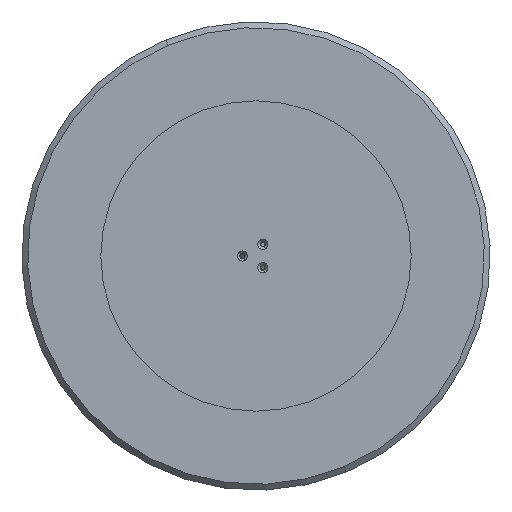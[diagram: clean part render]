
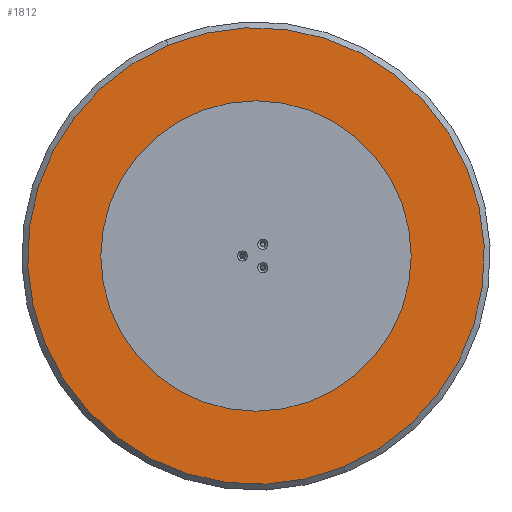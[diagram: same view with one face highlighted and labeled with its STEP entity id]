
A CAD part, front view. The second image highlights one B-rep face of the part: STEP entity #1812.
In plain terms, the highlighted planar face has unit normal (0, -1, 0).
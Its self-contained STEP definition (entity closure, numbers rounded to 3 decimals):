
#11 = CARTESIAN_POINT ( 'NONE',  ( 95., 0., -54.848 ) ) ;
#151 = EDGE_CURVE ( 'NONE', #3780, #4462, #2841, .T. ) ;
#310 = EDGE_CURVE ( 'NONE', #5137, #4382, #3032, .T. ) ;
#325 = DIRECTION ( 'NONE',  ( 0., -1., 0. ) ) ;
#335 = EDGE_LOOP ( 'NONE', ( #770, #4943 ) ) ;
#467 = CARTESIAN_POINT ( 'NONE',  ( 0., 0., 113.097 ) ) ;
#502 = EDGE_CURVE ( 'NONE', #5224, #3709, #5930, .T. ) ;
#513 = DIRECTION ( 'NONE',  ( 0., -1., 0. ) ) ;
#534 = EDGE_CURVE ( 'NONE', #4159, #6152, #1305, .T. ) ;
#560 = DIRECTION ( 'NONE',  ( 0., -1., 0. ) ) ;
#585 = CIRCLE ( 'NONE', #1911, 3.4 ) ;
#588 = CIRCLE ( 'NONE', #1095, 3.4 ) ;
#593 = CARTESIAN_POINT ( 'NONE',  ( 0., 0., 390. ) ) ;
#615 = ORIENTED_EDGE ( 'NONE', *, *, #151, .F. ) ;
#770 = ORIENTED_EDGE ( 'NONE', *, *, #534, .F. ) ;
#860 = DIRECTION ( 'NONE',  ( 0., 0., -1. ) ) ;
#971 = PLANE ( 'NONE',  #6348 ) ;
#988 = CARTESIAN_POINT ( 'NONE',  ( 95., 0., -51.448 ) ) ;
#1083 = DIRECTION ( 'NONE',  ( 0., -1., 0. ) ) ;
#1093 = AXIS2_PLACEMENT_3D ( 'NONE', #3929, #1083, #3494 ) ;
#1095 = AXIS2_PLACEMENT_3D ( 'NONE', #5447, #4363, #4842 ) ;
#1121 = CARTESIAN_POINT ( 'NONE',  ( 0., 0., -390. ) ) ;
#1122 = VERTEX_POINT ( 'NONE', #2198 ) ;
#1183 = AXIS2_PLACEMENT_3D ( 'NONE', #3269, #1347, #860 ) ;
#1305 = CIRCLE ( 'NONE', #1093, 3.4 ) ;
#1339 = ORIENTED_EDGE ( 'NONE', *, *, #502, .F. ) ;
#1347 = DIRECTION ( 'NONE',  ( 0., -1., 0. ) ) ;
#1695 = CARTESIAN_POINT ( 'NONE',  ( -95., 0., -54.848 ) ) ;
#1791 = CARTESIAN_POINT ( 'NONE',  ( 0., 0., 0. ) ) ;
#1812 = ADVANCED_FACE ( 'NONE', ( #5253, #5700, #2796, #6285, #6314 ), #971, .T. ) ;
#1865 = CARTESIAN_POINT ( 'NONE',  ( 0., 0., 0. ) ) ;
#1893 = DIRECTION ( 'NONE',  ( 0., 0., -1. ) ) ;
#1911 = AXIS2_PLACEMENT_3D ( 'NONE', #1695, #5628, #4214 ) ;
#1950 = DIRECTION ( 'NONE',  ( 0., 0., -1. ) ) ;
#1977 = CARTESIAN_POINT ( 'NONE',  ( -95., 0., -54.848 ) ) ;
#1990 = EDGE_LOOP ( 'NONE', ( #5505, #2734 ) ) ;
#2075 = DIRECTION ( 'NONE',  ( 0., 0., -1. ) ) ;
#2198 = CARTESIAN_POINT ( 'NONE',  ( 0., 0., 106.297 ) ) ;
#2249 = EDGE_CURVE ( 'NONE', #3141, #1122, #5313, .T. ) ;
#2451 = ORIENTED_EDGE ( 'NONE', *, *, #4725, .F. ) ;
#2527 = DIRECTION ( 'NONE',  ( 0., -1., 0. ) ) ;
#2534 = DIRECTION ( 'NONE',  ( 0., -1., 0. ) ) ;
#2699 = ORIENTED_EDGE ( 'NONE', *, *, #6231, .F. ) ;
#2734 = ORIENTED_EDGE ( 'NONE', *, *, #2249, .F. ) ;
#2796 = FACE_BOUND ( 'NONE', #1990, .T. ) ;
#2799 = EDGE_CURVE ( 'NONE', #6152, #4159, #3002, .T. ) ;
#2841 = CIRCLE ( 'NONE', #5610, 3.4 ) ;
#2995 = DIRECTION ( 'NONE',  ( 0., 0., -1. ) ) ;
#3002 = CIRCLE ( 'NONE', #3845, 3.4 ) ;
#3032 = CIRCLE ( 'NONE', #5207, 390. ) ;
#3076 = EDGE_CURVE ( 'NONE', #4382, #5137, #5101, .T. ) ;
#3108 = EDGE_CURVE ( 'NONE', #1122, #3141, #588, .T. ) ;
#3141 = VERTEX_POINT ( 'NONE', #467 ) ;
#3250 = AXIS2_PLACEMENT_3D ( 'NONE', #1977, #2527, #5368 ) ;
#3251 = ORIENTED_EDGE ( 'NONE', *, *, #3076, .T. ) ;
#3269 = CARTESIAN_POINT ( 'NONE',  ( 0., 0., 0. ) ) ;
#3409 = ORIENTED_EDGE ( 'NONE', *, *, #310, .T. ) ;
#3463 = AXIS2_PLACEMENT_3D ( 'NONE', #3571, #2534, #2075 ) ;
#3494 = DIRECTION ( 'NONE',  ( 0., 0., -1. ) ) ;
#3571 = CARTESIAN_POINT ( 'NONE',  ( 0., 0., 109.697 ) ) ;
#3625 = EDGE_LOOP ( 'NONE', ( #2699, #1339 ) ) ;
#3650 = CIRCLE ( 'NONE', #1183, 3.4 ) ;
#3657 = CARTESIAN_POINT ( 'NONE',  ( 0., 0., -3.4 ) ) ;
#3709 = VERTEX_POINT ( 'NONE', #4606 ) ;
#3780 = VERTEX_POINT ( 'NONE', #4633 ) ;
#3845 = AXIS2_PLACEMENT_3D ( 'NONE', #11, #513, #1950 ) ;
#3916 = CARTESIAN_POINT ( 'NONE',  ( -95., 0., -51.448 ) ) ;
#3929 = CARTESIAN_POINT ( 'NONE',  ( 95., 0., -54.848 ) ) ;
#4159 = VERTEX_POINT ( 'NONE', #5249 ) ;
#4214 = DIRECTION ( 'NONE',  ( 0., 0., -1. ) ) ;
#4283 = DIRECTION ( 'NONE',  ( 0., -1., 0. ) ) ;
#4363 = DIRECTION ( 'NONE',  ( 0., -1., 0. ) ) ;
#4376 = CARTESIAN_POINT ( 'NONE',  ( 0., 0., 0. ) ) ;
#4382 = VERTEX_POINT ( 'NONE', #1121 ) ;
#4462 = VERTEX_POINT ( 'NONE', #3657 ) ;
#4606 = CARTESIAN_POINT ( 'NONE',  ( -95., 0., -58.248 ) ) ;
#4633 = CARTESIAN_POINT ( 'NONE',  ( 0., 0., 3.4 ) ) ;
#4725 = EDGE_CURVE ( 'NONE', #4462, #3780, #3650, .T. ) ;
#4842 = DIRECTION ( 'NONE',  ( 0., 0., -1. ) ) ;
#4872 = CARTESIAN_POINT ( 'NONE',  ( 0., 0., 0. ) ) ;
#4943 = ORIENTED_EDGE ( 'NONE', *, *, #2799, .F. ) ;
#4990 = EDGE_LOOP ( 'NONE', ( #3409, #3251 ) ) ;
#5101 = CIRCLE ( 'NONE', #6233, 390. ) ;
#5137 = VERTEX_POINT ( 'NONE', #593 ) ;
#5207 = AXIS2_PLACEMENT_3D ( 'NONE', #1791, #325, #5338 ) ;
#5224 = VERTEX_POINT ( 'NONE', #3916 ) ;
#5249 = CARTESIAN_POINT ( 'NONE',  ( 95., 0., -58.248 ) ) ;
#5253 = FACE_BOUND ( 'NONE', #3625, .T. ) ;
#5313 = CIRCLE ( 'NONE', #3463, 3.4 ) ;
#5314 = DIRECTION ( 'NONE',  ( 0., -1., 0. ) ) ;
#5338 = DIRECTION ( 'NONE',  ( 0., 0., -1. ) ) ;
#5368 = DIRECTION ( 'NONE',  ( 0., 0., -1. ) ) ;
#5447 = CARTESIAN_POINT ( 'NONE',  ( 0., 0., 109.697 ) ) ;
#5505 = ORIENTED_EDGE ( 'NONE', *, *, #3108, .F. ) ;
#5610 = AXIS2_PLACEMENT_3D ( 'NONE', #4376, #4283, #6248 ) ;
#5628 = DIRECTION ( 'NONE',  ( 0., -1., 0. ) ) ;
#5700 = FACE_BOUND ( 'NONE', #335, .T. ) ;
#5930 = CIRCLE ( 'NONE', #3250, 3.4 ) ;
#5951 = EDGE_LOOP ( 'NONE', ( #2451, #615 ) ) ;
#6152 = VERTEX_POINT ( 'NONE', #988 ) ;
#6231 = EDGE_CURVE ( 'NONE', #3709, #5224, #585, .T. ) ;
#6233 = AXIS2_PLACEMENT_3D ( 'NONE', #4872, #560, #2995 ) ;
#6248 = DIRECTION ( 'NONE',  ( 0., 0., -1. ) ) ;
#6285 = FACE_BOUND ( 'NONE', #5951, .T. ) ;
#6314 = FACE_OUTER_BOUND ( 'NONE', #4990, .T. ) ;
#6348 = AXIS2_PLACEMENT_3D ( 'NONE', #1865, #5314, #1893 ) ;
